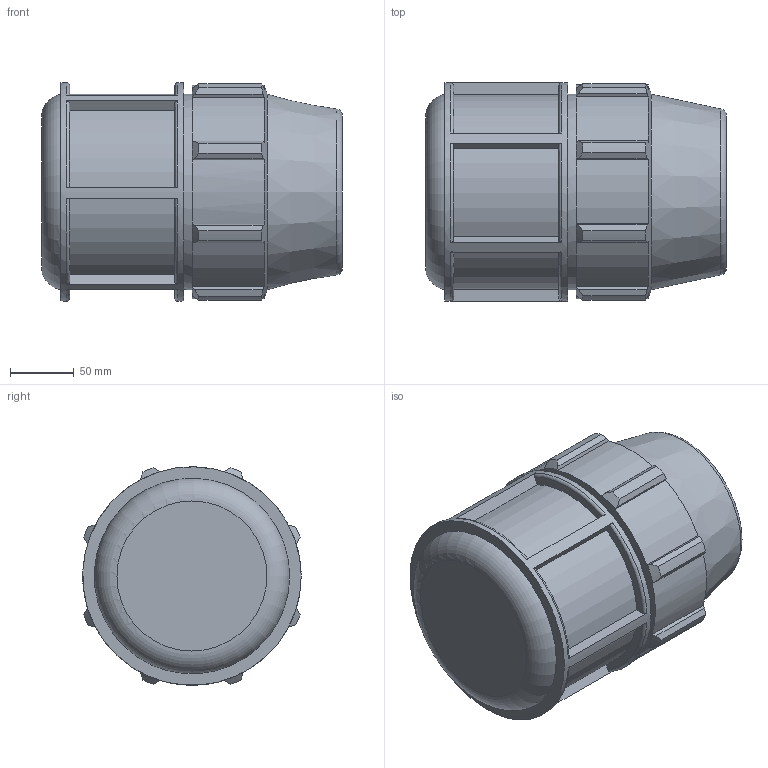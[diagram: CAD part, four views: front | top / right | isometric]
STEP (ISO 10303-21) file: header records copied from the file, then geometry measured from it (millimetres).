
FILE_DESCRIPTION(/* description */ ('PLASSON END PLUG 4'''''),/* implementation_level */ '2;1');
FILE_NAME(/* name */ 'C:\Dropbox\KIMPROJECTS-Inventor 2019\99-16-3568-Processing Inch\ASTM Compression 2021\0712M0\0712M0400.ipt.stp',/* time_stamp */ '2021-08-26T12:33:23+03:00',/* author */ ('Кирилл'),/* organization */ (''),/* preprocessor_version */ 'ST-DEVELOPER v17.2',/* originating_system */ 'Autodesk Inventor 2019',/* authorisation */ '');
FILE_SCHEMA (('AUTOMOTIVE_DESIGN { 1 0 10303 214 3 1 1 }'));
Length unit declared in the file: inch
Products named in the file (1): 0712M0400
Bounding box: 236.98 x 171.96 x 172.04 mm (x, y, z)
Volume: 2320340.5 mm3; surface area: 259100.7 mm2
Topology: 1 solids, 1 shells, 115 faces, 317 edges, 215 vertices
Faces by surface type: plane 63, cylinder 25, torus 15, cone 12
Full cylindrical faces by diameter (mm): 114.1 x1, 153.937 x1, 172.047 x1
Entity records: 4019 total; most frequent: CARTESIAN_POINT 928, ORIENTED_EDGE 634, DIRECTION 603, EDGE_CURVE 317, AXIS2_PLACEMENT_3D 226, VERTEX_POINT 215, LINE 151, VECTOR 151
